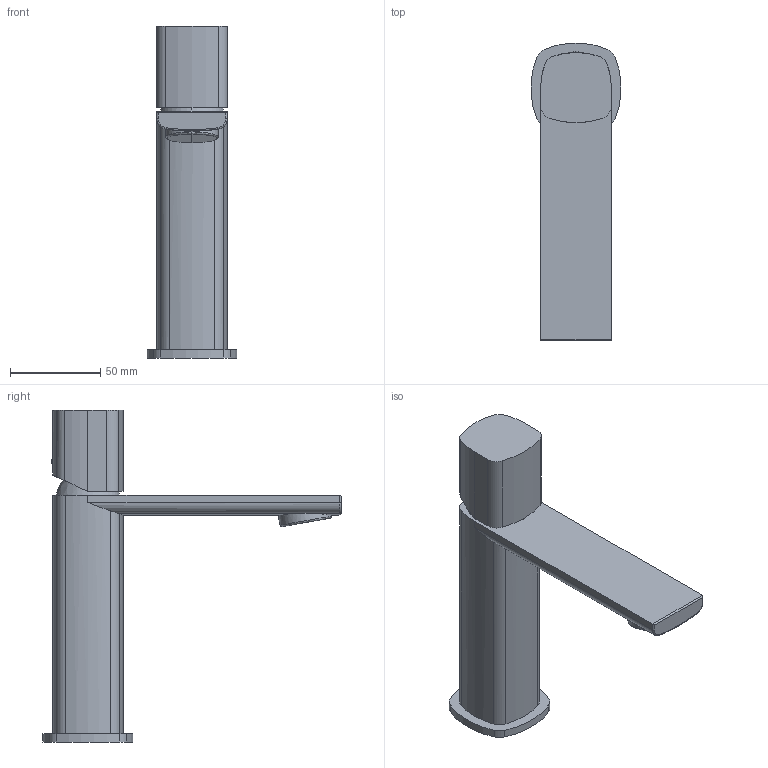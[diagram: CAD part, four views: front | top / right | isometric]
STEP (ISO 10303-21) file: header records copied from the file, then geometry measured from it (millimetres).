
FILE_DESCRIPTION(('FreeCAD Model'),'2;1');
FILE_NAME('Open CASCADE Shape Model','2024-11-19T13:38:07',('Author'),( ''),'Open CASCADE STEP processor 7.6','FreeCAD','Unknown');
FILE_SCHEMA(('AUTOMOTIVE_DESIGN { 1 0 10303 214 1 1 1 1 }'));
Length unit declared in the file: millimetre
Products named in the file (3): TopLevelAssembly; Obrót profilu; Połączona geometria bryłowa
Assembly tree (2 placements, depth 2):
  TopLevelAssembly
    Obrót profilu
    Połączona geometria bryłowa
Bounding box: 49.71 x 164.85 x 183.6 mm (x, y, z)
Volume: 296571.2 mm3; surface area: 41401.2 mm2
Topology: 2 solids, 2 shells, 63 faces, 152 edges, 94 vertices
Faces by surface type: cylinder 37, plane 17, bspline 9
Entity records: 2091 total; most frequent: CARTESIAN_POINT 568, DIRECTION 324, ORIENTED_EDGE 300, EDGE_CURVE 150, AXIS2_PLACEMENT_3D 134, VERTEX_POINT 94, CIRCLE 70, FACE_BOUND 66
